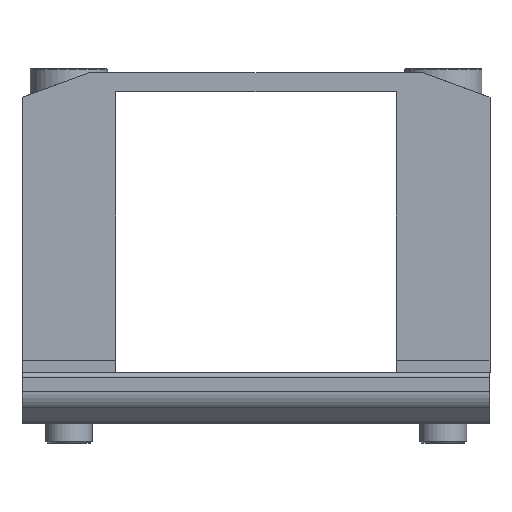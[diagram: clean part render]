
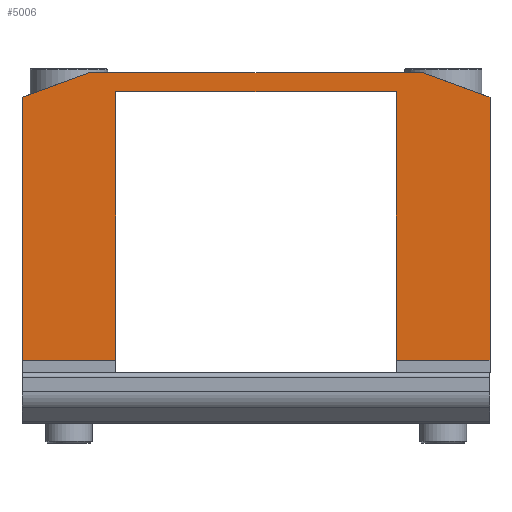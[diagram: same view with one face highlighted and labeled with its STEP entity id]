
A CAD part, top view. The second image highlights one B-rep face of the part: STEP entity #5006.
In plain terms, the highlighted planar face has unit normal (0, 0, 1).
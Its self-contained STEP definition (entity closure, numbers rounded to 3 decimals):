
#40 = VECTOR ( 'NONE', #8751, 1000. ) ;
#171 = CARTESIAN_POINT ( 'NONE',  ( -82.314, 16.736, 6. ) ) ;
#259 = CARTESIAN_POINT ( 'NONE',  ( -32.314, 47.45, 6. ) ) ;
#509 = EDGE_CURVE ( 'NONE', #901, #6282, #1076, .T. ) ;
#838 = VECTOR ( 'NONE', #3168, 1000. ) ;
#847 = CARTESIAN_POINT ( 'NONE',  ( -39.454, 47.45, 6. ) ) ;
#901 = VERTEX_POINT ( 'NONE', #6802 ) ;
#1076 = LINE ( 'NONE', #7407, #4634 ) ;
#1124 = ORIENTED_EDGE ( 'NONE', *, *, #6388, .T. ) ;
#1255 = CARTESIAN_POINT ( 'NONE',  ( -39.454, 47.45, 6. ) ) ;
#1289 = LINE ( 'NONE', #259, #6764 ) ;
#1542 = ORIENTED_EDGE ( 'NONE', *, *, #4820, .F. ) ;
#1569 = ORIENTED_EDGE ( 'NONE', *, *, #6269, .F. ) ;
#1766 = EDGE_CURVE ( 'NONE', #4204, #2208, #2158, .T. ) ;
#1849 = VECTOR ( 'NONE', #2546, 1000. ) ;
#1862 = CARTESIAN_POINT ( 'NONE',  ( -32.314, 15.45, 6. ) ) ;
#2052 = ORIENTED_EDGE ( 'NONE', *, *, #5922, .F. ) ;
#2056 = VERTEX_POINT ( 'NONE', #8983 ) ;
#2066 = LINE ( 'NONE', #4719, #1849 ) ;
#2085 = VECTOR ( 'NONE', #6849, 1000. ) ;
#2158 = LINE ( 'NONE', #8405, #7630 ) ;
#2167 = VECTOR ( 'NONE', #7614, 1000. ) ;
#2208 = VERTEX_POINT ( 'NONE', #2693 ) ;
#2358 = EDGE_CURVE ( 'NONE', #5453, #2444, #5273, .T. ) ;
#2361 = ORIENTED_EDGE ( 'NONE', *, *, #6365, .T. ) ;
#2444 = VERTEX_POINT ( 'NONE', #3805 ) ;
#2456 = CARTESIAN_POINT ( 'NONE',  ( -82.314, 16.736, 6. ) ) ;
#2510 = CARTESIAN_POINT ( 'NONE',  ( -75.174, 47.45, 6. ) ) ;
#2546 = DIRECTION ( 'NONE',  ( 0., -1., 0. ) ) ;
#2592 = CARTESIAN_POINT ( 'NONE',  ( -75.174, 47.45, 6. ) ) ;
#2612 = CARTESIAN_POINT ( 'NONE',  ( -42.314, 15.45, 6. ) ) ;
#2693 = CARTESIAN_POINT ( 'NONE',  ( -32.314, 16.736, 6. ) ) ;
#2731 = CARTESIAN_POINT ( 'NONE',  ( -72.314, 45.45, 6. ) ) ;
#2822 = PLANE ( 'NONE',  #6466 ) ;
#3129 = DIRECTION ( 'NONE',  ( 0., -1., 0. ) ) ;
#3152 = VECTOR ( 'NONE', #6560, 1000. ) ;
#3168 = DIRECTION ( 'NONE',  ( 1., 0., 0. ) ) ;
#3247 = ORIENTED_EDGE ( 'NONE', *, *, #2358, .F. ) ;
#3525 = VECTOR ( 'NONE', #7602, 1000. ) ;
#3554 = DIRECTION ( 'NONE',  ( 1., 0., 0. ) ) ;
#3805 = CARTESIAN_POINT ( 'NONE',  ( -32.314, 44.851, 6. ) ) ;
#3864 = FACE_OUTER_BOUND ( 'NONE', #5203, .T. ) ;
#4204 = VERTEX_POINT ( 'NONE', #6801 ) ;
#4443 = CARTESIAN_POINT ( 'NONE',  ( -42.314, 45.45, 6. ) ) ;
#4553 = VERTEX_POINT ( 'NONE', #5782 ) ;
#4634 = VECTOR ( 'NONE', #3129, 1000. ) ;
#4719 = CARTESIAN_POINT ( 'NONE',  ( -72.314, 45.45, 6. ) ) ;
#4774 = EDGE_CURVE ( 'NONE', #2208, #2444, #5639, .T. ) ;
#4820 = EDGE_CURVE ( 'NONE', #901, #8469, #7338, .T. ) ;
#5006 = ADVANCED_FACE ( 'NONE', ( #3864 ), #2822, .T. ) ;
#5203 = EDGE_LOOP ( 'NONE', ( #1542, #6130, #1124, #5254, #1569, #2052, #8582, #7810, #3247, #2361 ) ) ;
#5254 = ORIENTED_EDGE ( 'NONE', *, *, #6513, .F. ) ;
#5273 = LINE ( 'NONE', #847, #3152 ) ;
#5453 = VERTEX_POINT ( 'NONE', #1255 ) ;
#5540 = VERTEX_POINT ( 'NONE', #2731 ) ;
#5639 = LINE ( 'NONE', #1862, #2085 ) ;
#5782 = CARTESIAN_POINT ( 'NONE',  ( -42.314, 45.45, 6. ) ) ;
#5922 = EDGE_CURVE ( 'NONE', #4204, #4553, #6179, .T. ) ;
#6130 = ORIENTED_EDGE ( 'NONE', *, *, #509, .T. ) ;
#6179 = LINE ( 'NONE', #2612, #2167 ) ;
#6269 = EDGE_CURVE ( 'NONE', #4553, #5540, #7659, .T. ) ;
#6282 = VERTEX_POINT ( 'NONE', #171 ) ;
#6365 = EDGE_CURVE ( 'NONE', #5453, #8469, #1289, .T. ) ;
#6388 = EDGE_CURVE ( 'NONE', #6282, #2056, #6532, .T. ) ;
#6466 = AXIS2_PLACEMENT_3D ( 'NONE', #9263, #7839, #3554 ) ;
#6513 = EDGE_CURVE ( 'NONE', #5540, #2056, #2066, .T. ) ;
#6532 = LINE ( 'NONE', #2456, #838 ) ;
#6560 = DIRECTION ( 'NONE',  ( 0.94, -0.342, 0. ) ) ;
#6711 = DIRECTION ( 'NONE',  ( -1., 0., 0. ) ) ;
#6764 = VECTOR ( 'NONE', #6711, 1000. ) ;
#6801 = CARTESIAN_POINT ( 'NONE',  ( -42.314, 16.736, 6. ) ) ;
#6802 = CARTESIAN_POINT ( 'NONE',  ( -82.314, 44.851, 6. ) ) ;
#6849 = DIRECTION ( 'NONE',  ( 0., 1., 0. ) ) ;
#7338 = LINE ( 'NONE', #2592, #3525 ) ;
#7407 = CARTESIAN_POINT ( 'NONE',  ( -82.314, 47.45, 6. ) ) ;
#7602 = DIRECTION ( 'NONE',  ( 0.94, 0.342, 0. ) ) ;
#7614 = DIRECTION ( 'NONE',  ( 0., 1., 0. ) ) ;
#7630 = VECTOR ( 'NONE', #9283, 1000. ) ;
#7659 = LINE ( 'NONE', #4443, #40 ) ;
#7810 = ORIENTED_EDGE ( 'NONE', *, *, #4774, .T. ) ;
#7839 = DIRECTION ( 'NONE',  ( 0., 0., 1. ) ) ;
#8405 = CARTESIAN_POINT ( 'NONE',  ( -82.315, 16.736, 6. ) ) ;
#8469 = VERTEX_POINT ( 'NONE', #2510 ) ;
#8582 = ORIENTED_EDGE ( 'NONE', *, *, #1766, .T. ) ;
#8751 = DIRECTION ( 'NONE',  ( -1., 0., 0. ) ) ;
#8983 = CARTESIAN_POINT ( 'NONE',  ( -72.314, 16.736, 6. ) ) ;
#9263 = CARTESIAN_POINT ( 'NONE',  ( 0., 0., 6. ) ) ;
#9283 = DIRECTION ( 'NONE',  ( 1., 0., 0. ) ) ;
